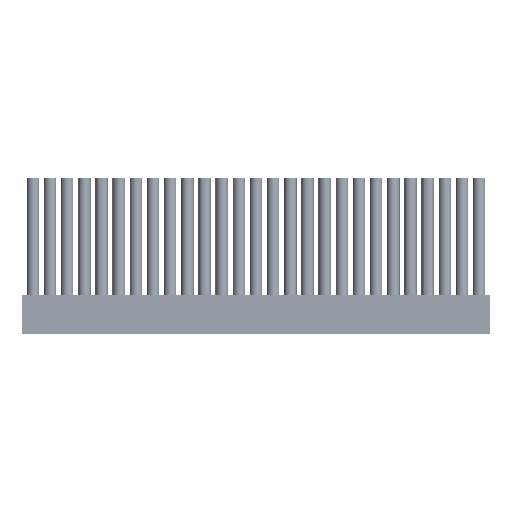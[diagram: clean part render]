
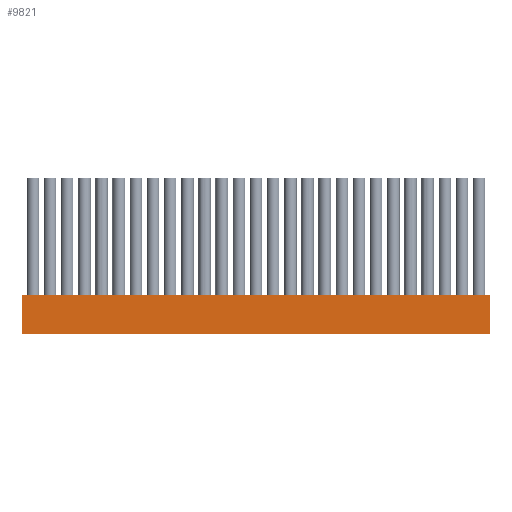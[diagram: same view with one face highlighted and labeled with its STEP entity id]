
A CAD part, front view. The second image highlights one B-rep face of the part: STEP entity #9821.
In plain terms, the highlighted planar face has unit normal (0, -1, 0).
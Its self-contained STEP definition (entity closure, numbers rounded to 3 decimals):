
#9821=ADVANCED_FACE('',(#12262),#11042,.F.);
#11042=PLANE('',#31783);
#12262=FACE_OUTER_BOUND('',#17128,.T.);
#17128=EDGE_LOOP('',(#22009,#22010,#22011,#22012));
#22009=ORIENTED_EDGE('',*,*,#24461,.T.);
#22010=ORIENTED_EDGE('',*,*,#24460,.T.);
#22011=ORIENTED_EDGE('',*,*,#24451,.T.);
#22012=ORIENTED_EDGE('',*,*,#24456,.F.);
#22013=VERTEX_POINT('',#41532);
#22014=VERTEX_POINT('',#41533);
#22017=VERTEX_POINT('',#41541);
#22020=VERTEX_POINT('',#41548);
#24451=EDGE_CURVE('',#22013,#22014,#26893,.T.);
#24456=EDGE_CURVE('',#22017,#22014,#26898,.T.);
#24460=EDGE_CURVE('',#22020,#22013,#26902,.T.);
#24461=EDGE_CURVE('',#22017,#22020,#26903,.T.);
#26893=LINE('',#41531,#26905);
#26898=LINE('',#41543,#26910);
#26902=LINE('',#41550,#26914);
#26903=LINE('',#41552,#26915);
#26905=VECTOR('',#31786,1.);
#26910=VECTOR('',#31793,1.);
#26914=VECTOR('',#31799,1.);
#26915=VECTOR('',#31802,1.);
#31783=AXIS2_PLACEMENT_3D('',#48846,#41528,#41529);
#31786=DIRECTION('',(1.,0.,0.));
#31793=DIRECTION('',(0.,0.,-1.));
#31799=DIRECTION('',(0.,0.,-1.));
#31802=DIRECTION('',(-1.,0.,0.));
#41528=DIRECTION('',(0.,1.,0.));
#41529=DIRECTION('',(-1.,0.,0.));
#41531=CARTESIAN_POINT('',(-60.,40.8,0.));
#41532=CARTESIAN_POINT('',(-60.,40.8,0.));
#41533=CARTESIAN_POINT('',(60.,40.8,0.));
#41541=CARTESIAN_POINT('',(60.,40.8,10.));
#41543=CARTESIAN_POINT('',(60.,40.8,45.));
#41548=CARTESIAN_POINT('',(-60.,40.8,10.));
#41550=CARTESIAN_POINT('',(-60.,40.8,45.));
#41552=CARTESIAN_POINT('',(60.,40.8,10.));
#48846=CARTESIAN_POINT('',(-60.,40.8,45.));
